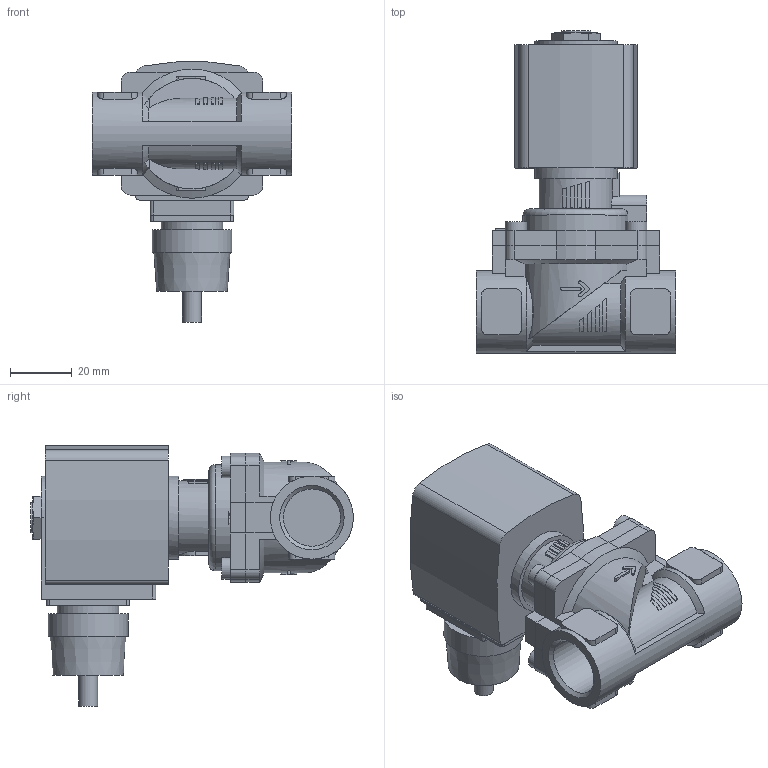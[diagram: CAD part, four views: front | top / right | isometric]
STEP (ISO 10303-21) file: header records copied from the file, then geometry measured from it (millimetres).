
FILE_DESCRIPTION(/* description */ ('STEP AP214'),/* implementation_level */ '2;1');
FILE_NAME(/* name */ '6281-387685-2_2-Way_Solenoid_Valve__Servo-assisted__General_Purpose',/* time_stamp */ '2024-08-17T23:08:23+02:00',/* author */ ('License CC BY-ND 4.0'),/* organization */ ('CADENAS'),/* preprocessor_version */ 'ST-DEVELOPER v19.3',/* originating_system */ 'PARTsolutions',/* authorisation */ ' ');
FILE_SCHEMA (('AUTOMOTIVE_DESIGN {1 0 10303 214 3 1 1}'));
Length unit declared in the file: millimetre
Products named in the file (4): 6281-387685-2/2-Way Solenoid Valve, Servo-assisted, General Purpose; 5281ev130VA2/2-Wege-Magnetventil mit Servomembran-Deckel 42 ; 6213-13G1/2VA-Gehaeuse-; AC10ex-6ATEXKabelPlan-Coil
Assembly tree (3 placements, depth 2):
  6281-387685-2/2-Way Solenoid Valve, Servo-assisted, General Purpose
    5281ev130VA2/2-Wege-Magnetventil mit Servomembran-Deckel 42 
    6213-13G1/2VA-Gehaeuse-
    AC10ex-6ATEXKabelPlan-Coil
Bounding box: 65 x 105 x 84.63 mm (x, y, z)
Volume: 153027.7 mm3; surface area: 33370.3 mm2
Topology: 3 solids, 3 shells, 308 faces, 783 edges, 511 vertices
Faces by surface type: plane 197, cylinder 95, cone 15, torus 1
Full cylindrical faces by diameter (mm): 6.2 x1, 7 x4, 9.74 x1, 18.631 x2, 20 x1, 26 x1, 27 x2
Entity records: 10336 total; most frequent: CARTESIAN_POINT 1836, DIRECTION 1572, ORIENTED_EDGE 1518, EDGE_CURVE 759, AXIS2_PLACEMENT_3D 570, VERTEX_POINT 505, LINE 432, VECTOR 432
